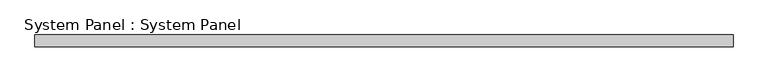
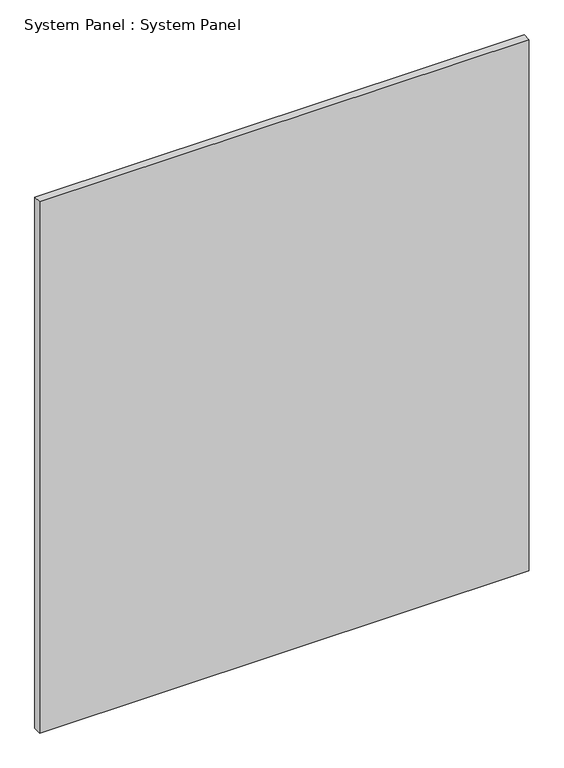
"""IFC4 building model written with IfcOpenShell, lengths in millimetres: plate geometry, System Panel : System Panel."""

from ifc_helpers import new_model, si_unit, origin, origin_with_axes, place, context, project, spatial, polyline, outline, extrude, source, transform, mapped, element, save


def system_panel_system_panel_32437ed1(model_context):
    return source(origin(), model_context, "Body", "SweptSolid", [
        extrude(outline(polyline([(755.65, 19.05), (-755.65, 19.05), (-755.65, 44.45), (755.65, 44.45), (755.65, 19.05)])), origin_with_axes(), (0.0, 0.0, 1.0), 1733.55),
    ])


if __name__ == "__main__":
    model = new_model("IFC4")
    model_context = context("Model", 3, world=origin())
    ifc_project = project(units=[si_unit("LENGTHUNIT", "METRE", prefix="MILLI")], contexts=[model_context])
    site = spatial("IfcSite", under=ifc_project)
    building = spatial("IfcBuilding", under=site)
    placement = place(None, origin())
    system_panel_system_panel_shape = system_panel_system_panel_32437ed1(model_context)
    element("IfcPlate", 1, ObjectType="System Panel : System Panel", at=placement, inside=building, context=model_context, shape_type="MappedRepresentation", body=[
        mapped(system_panel_system_panel_shape, transform((0.0, 0.0, 0.0), x_axis=(1.0, 0.0, 0.0), y_axis=(0.0, 1.0, 0.0), z_axis=(0.0, 0.0, 1.0))),
    ])
    save(model, "model.ifc")
